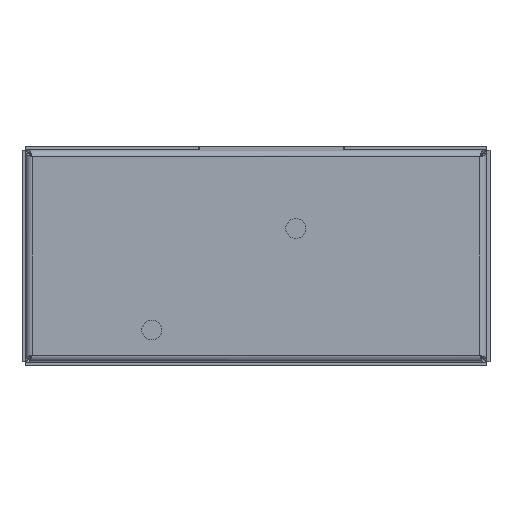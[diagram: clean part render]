
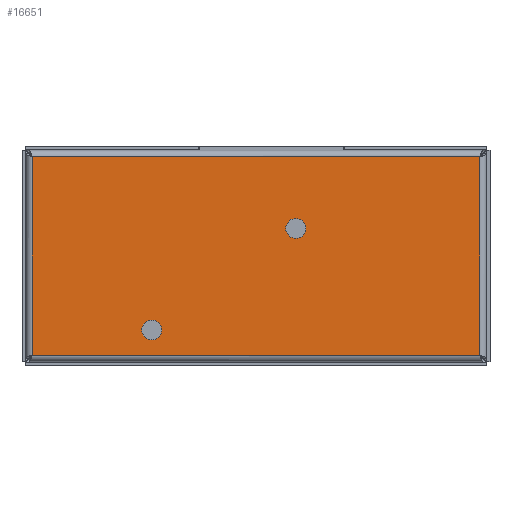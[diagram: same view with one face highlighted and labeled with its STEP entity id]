
A CAD part, front view. The second image highlights one B-rep face of the part: STEP entity #16651.
In plain terms, the highlighted planar face has unit normal (0, -1, 0).
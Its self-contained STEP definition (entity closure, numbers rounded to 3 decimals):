
#46 = ORIENTED_EDGE ( 'NONE', *, *, #2385, .T. ) ;
#539 = DIRECTION ( 'NONE',  ( 1., 0., 0. ) ) ;
#646 = LINE ( 'NONE', #856, #5110 ) ;
#678 = AXIS2_PLACEMENT_3D ( 'NONE', #10814, #24193, #12748 ) ;
#856 = CARTESIAN_POINT ( 'NONE',  ( 48.969, 0., 21.44 ) ) ;
#995 = ORIENTED_EDGE ( 'NONE', *, *, #9910, .T. ) ;
#2002 = FACE_BOUND ( 'NONE', #4698, .T. ) ;
#2385 = EDGE_CURVE ( 'NONE', #20549, #10452, #18866, .T. ) ;
#2448 = LINE ( 'NONE', #23489, #12057 ) ;
#2726 = DIRECTION ( 'NONE',  ( 0., 0., 1. ) ) ;
#2850 = ORIENTED_EDGE ( 'NONE', *, *, #3791, .T. ) ;
#3225 = VECTOR ( 'NONE', #19903, 1000. ) ;
#3791 = EDGE_CURVE ( 'NONE', #20355, #5181, #8324, .T. ) ;
#3850 = VERTEX_POINT ( 'NONE', #17059 ) ;
#4072 = ORIENTED_EDGE ( 'NONE', *, *, #10060, .T. ) ;
#4480 = EDGE_CURVE ( 'NONE', #5646, #5646, #5268, .T. ) ;
#4698 = EDGE_LOOP ( 'NONE', ( #5850 ) ) ;
#5110 = VECTOR ( 'NONE', #21970, 1000. ) ;
#5181 = VERTEX_POINT ( 'NONE', #23217 ) ;
#5209 = CARTESIAN_POINT ( 'NONE',  ( 48.34, 0., -21.44 ) ) ;
#5268 = CIRCLE ( 'NONE', #678, 2.15 ) ;
#5646 = VERTEX_POINT ( 'NONE', #11205 ) ;
#5756 = EDGE_LOOP ( 'NONE', ( #16472 ) ) ;
#5850 = ORIENTED_EDGE ( 'NONE', *, *, #4480, .T. ) ;
#6135 = CARTESIAN_POINT ( 'NONE',  ( -48.34, 0., 21.44 ) ) ;
#6407 = CARTESIAN_POINT ( 'NONE',  ( 8.59, 0., 5.95 ) ) ;
#6458 = DIRECTION ( 'NONE',  ( 0., 0., -1. ) ) ;
#6477 = CARTESIAN_POINT ( 'NONE',  ( 48.34, 0., -22.069 ) ) ;
#6916 = AXIS2_PLACEMENT_3D ( 'NONE', #6407, #19833, #8351 ) ;
#7670 = FACE_BOUND ( 'NONE', #5756, .T. ) ;
#8324 = LINE ( 'NONE', #21821, #3225 ) ;
#8351 = DIRECTION ( 'NONE',  ( 0., 0., 1. ) ) ;
#9910 = EDGE_CURVE ( 'NONE', #5181, #20549, #2448, .T. ) ;
#10060 = EDGE_CURVE ( 'NONE', #10452, #20355, #646, .T. ) ;
#10452 = VERTEX_POINT ( 'NONE', #19598 ) ;
#10814 = CARTESIAN_POINT ( 'NONE',  ( -22.51, 0., -15.97 ) ) ;
#11205 = CARTESIAN_POINT ( 'NONE',  ( -22.51, 0., -13.82 ) ) ;
#11605 = FACE_OUTER_BOUND ( 'NONE', #23556, .T. ) ;
#12057 = VECTOR ( 'NONE', #539, 1000. ) ;
#12748 = DIRECTION ( 'NONE',  ( 0., 0., 1. ) ) ;
#13796 = VECTOR ( 'NONE', #2726, 1000. ) ;
#14139 = CARTESIAN_POINT ( 'NONE',  ( 0., 0., 0. ) ) ;
#16064 = PLANE ( 'NONE',  #23447 ) ;
#16472 = ORIENTED_EDGE ( 'NONE', *, *, #17588, .T. ) ;
#16651 = ADVANCED_FACE ( 'NONE', ( #2002, #7670, #11605 ), #16064, .T. ) ;
#17059 = CARTESIAN_POINT ( 'NONE',  ( 8.59, 0., 8.1 ) ) ;
#17588 = EDGE_CURVE ( 'NONE', #3850, #3850, #21164, .T. ) ;
#17981 = DIRECTION ( 'NONE',  ( 0., -1., 0. ) ) ;
#18866 = LINE ( 'NONE', #6477, #13796 ) ;
#19598 = CARTESIAN_POINT ( 'NONE',  ( 48.34, 0., 21.44 ) ) ;
#19833 = DIRECTION ( 'NONE',  ( 0., 1., 0. ) ) ;
#19903 = DIRECTION ( 'NONE',  ( 0., 0., -1. ) ) ;
#20355 = VERTEX_POINT ( 'NONE', #6135 ) ;
#20549 = VERTEX_POINT ( 'NONE', #5209 ) ;
#21164 = CIRCLE ( 'NONE', #6916, 2.15 ) ;
#21821 = CARTESIAN_POINT ( 'NONE',  ( -48.34, 0., 22.069 ) ) ;
#21970 = DIRECTION ( 'NONE',  ( -1., 0., 0. ) ) ;
#23217 = CARTESIAN_POINT ( 'NONE',  ( -48.34, 0., -21.44 ) ) ;
#23447 = AXIS2_PLACEMENT_3D ( 'NONE', #14139, #17981, #6458 ) ;
#23489 = CARTESIAN_POINT ( 'NONE',  ( -48.969, 0., -21.44 ) ) ;
#23556 = EDGE_LOOP ( 'NONE', ( #4072, #2850, #995, #46 ) ) ;
#24193 = DIRECTION ( 'NONE',  ( 0., 1., 0. ) ) ;
